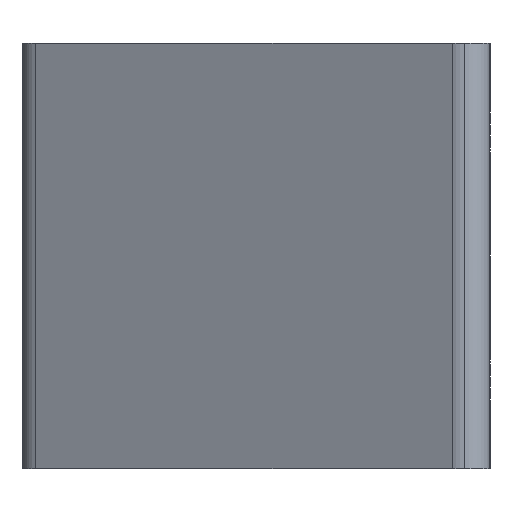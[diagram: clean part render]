
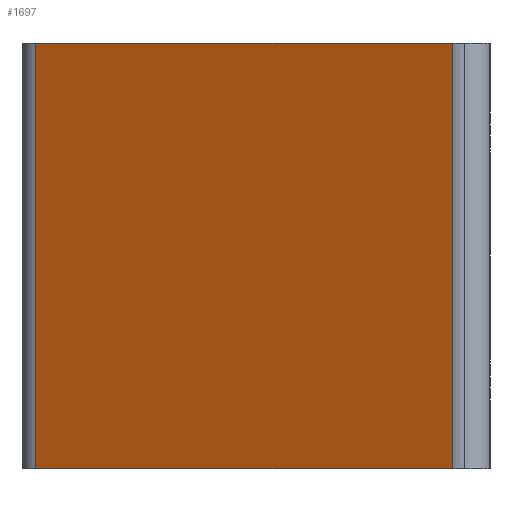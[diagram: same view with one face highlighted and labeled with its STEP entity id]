
A CAD part, left-side view. The second image highlights one B-rep face of the part: STEP entity #1697.
In plain terms, the highlighted planar face has unit normal (-0.881, 0.473, 0).
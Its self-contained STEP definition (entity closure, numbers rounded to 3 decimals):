
#21 = AXIS2_PLACEMENT_3D ( 'NONE', #2213, #2203, #2202 ) ;
#152 = EDGE_CURVE ( 'NONE', #673, #849, #768, .T. ) ;
#257 = EDGE_CURVE ( 'NONE', #1154, #673, #1601, .T. ) ;
#258 = EDGE_CURVE ( 'NONE', #865, #849, #1599, .T. ) ;
#334 = EDGE_CURVE ( 'NONE', #1154, #865, #1460, .T. ) ;
#452 = DIRECTION ( 'NONE',  ( -0.473, -0.881, 0. ) ) ;
#500 = CARTESIAN_POINT ( 'NONE',  ( -83.5, 0., -25. ) ) ;
#605 = VECTOR ( 'NONE', #452, 1000. ) ;
#673 = VERTEX_POINT ( 'NONE', #1787 ) ;
#675 = ORIENTED_EDGE ( 'NONE', *, *, #257, .T. ) ;
#714 = EDGE_LOOP ( 'NONE', ( #1134, #862, #943, #675 ) ) ;
#768 = LINE ( 'NONE', #500, #605 ) ;
#849 = VERTEX_POINT ( 'NONE', #1751 ) ;
#862 = ORIENTED_EDGE ( 'NONE', *, *, #258, .F. ) ;
#865 = VERTEX_POINT ( 'NONE', #1748 ) ;
#943 = ORIENTED_EDGE ( 'NONE', *, *, #334, .F. ) ;
#1134 = ORIENTED_EDGE ( 'NONE', *, *, #152, .T. ) ;
#1154 = VERTEX_POINT ( 'NONE', #2031 ) ;
#1327 = FACE_OUTER_BOUND ( 'NONE', #714, .T. ) ;
#1458 = VECTOR ( 'NONE', #1834, 1000. ) ;
#1460 = LINE ( 'NONE', #1835, #1458 ) ;
#1596 = VECTOR ( 'NONE', #1971, 1000. ) ;
#1598 = VECTOR ( 'NONE', #1974, 1000. ) ;
#1599 = LINE ( 'NONE', #1973, #1596 ) ;
#1601 = LINE ( 'NONE', #1975, #1598 ) ;
#1697 = ADVANCED_FACE ( 'NONE', ( #1327 ), #2206, .F. ) ;
#1748 = CARTESIAN_POINT ( 'NONE',  ( -81.13, 4.418, 25. ) ) ;
#1751 = CARTESIAN_POINT ( 'NONE',  ( -81.13, 4.418, -25. ) ) ;
#1787 = CARTESIAN_POINT ( 'NONE',  ( -54.849, 53.418, -25. ) ) ;
#1834 = DIRECTION ( 'NONE',  ( -0.473, -0.881, 0. ) ) ;
#1835 = CARTESIAN_POINT ( 'NONE',  ( -83.5, 0., 25. ) ) ;
#1971 = DIRECTION ( 'NONE',  ( 0., 0., -1. ) ) ;
#1973 = CARTESIAN_POINT ( 'NONE',  ( -81.13, 4.418, 25. ) ) ;
#1974 = DIRECTION ( 'NONE',  ( 0., 0., -1. ) ) ;
#1975 = CARTESIAN_POINT ( 'NONE',  ( -54.849, 53.418, 25. ) ) ;
#2031 = CARTESIAN_POINT ( 'NONE',  ( -54.849, 53.418, 25. ) ) ;
#2202 = DIRECTION ( 'NONE',  ( 0.473, 0.881, 0. ) ) ;
#2203 = DIRECTION ( 'NONE',  ( 0.881, -0.473, 0. ) ) ;
#2206 = PLANE ( 'NONE',  #21 ) ;
#2213 = CARTESIAN_POINT ( 'NONE',  ( -83.5, 0., 25. ) ) ;
